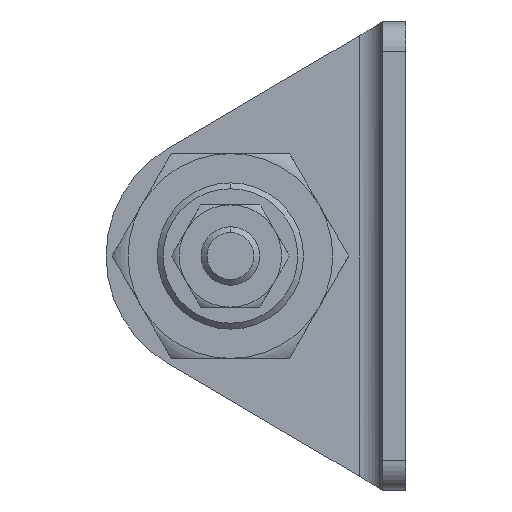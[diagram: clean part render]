
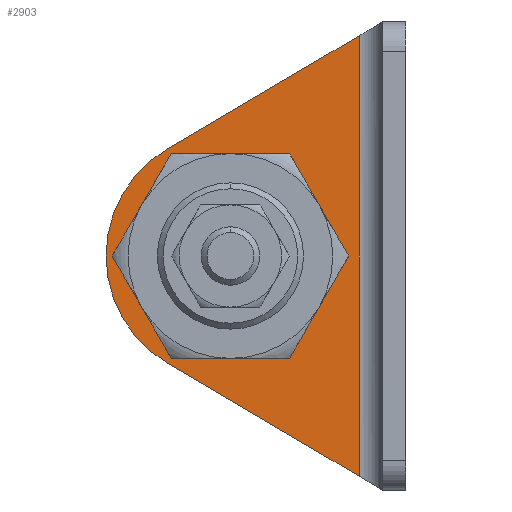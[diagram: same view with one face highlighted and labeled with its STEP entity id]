
A CAD part, left-side view. The second image highlights one B-rep face of the part: STEP entity #2903.
In plain terms, the highlighted planar face has unit normal (-1, 0, 0).
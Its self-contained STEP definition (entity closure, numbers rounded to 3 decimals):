
#16 = AXIS2_PLACEMENT_3D ( 'NONE', #1990, #3541, #2503 ) ;
#64 = EDGE_CURVE ( 'NONE', #3720, #2274, #1570, .T. ) ;
#189 = CIRCLE ( 'NONE', #3404, 5.7 ) ;
#305 = ORIENTED_EDGE ( 'NONE', *, *, #64, .T. ) ;
#316 = CIRCLE ( 'NONE', #16, 8.5 ) ;
#451 = VERTEX_POINT ( 'NONE', #3080 ) ;
#496 = EDGE_CURVE ( 'NONE', #2274, #1502, #316, .T. ) ;
#500 = EDGE_CURVE ( 'NONE', #1502, #1925, #1796, .T. ) ;
#674 = EDGE_LOOP ( 'NONE', ( #305, #868, #2521, #2812 ) ) ;
#701 = DIRECTION ( 'NONE',  ( 0., -1., 0. ) ) ;
#819 = DIRECTION ( 'NONE',  ( 0., -0.861, -0.508 ) ) ;
#858 = DIRECTION ( 'NONE',  ( 0., -1., 0. ) ) ;
#866 = DIRECTION ( 'NONE',  ( 0., 0.861, -0.508 ) ) ;
#868 = ORIENTED_EDGE ( 'NONE', *, *, #496, .T. ) ;
#1016 = CARTESIAN_POINT ( 'NONE',  ( -1.6, 15.601, -7.744 ) ) ;
#1024 = EDGE_CURVE ( 'NONE', #451, #1341, #189, .T. ) ;
#1225 = VECTOR ( 'NONE', #819, 1000. ) ;
#1237 = CARTESIAN_POINT ( 'NONE',  ( -1.6, 17.7, 0. ) ) ;
#1341 = VERTEX_POINT ( 'NONE', #1237 ) ;
#1413 = DIRECTION ( 'NONE',  ( -1., 0., 0. ) ) ;
#1453 = ORIENTED_EDGE ( 'NONE', *, *, #3243, .F. ) ;
#1485 = DIRECTION ( 'NONE',  ( -1., 0., 0. ) ) ;
#1502 = VERTEX_POINT ( 'NONE', #2866 ) ;
#1570 = LINE ( 'NONE', #3834, #3823 ) ;
#1669 = AXIS2_PLACEMENT_3D ( 'NONE', #1687, #3621, #3235 ) ;
#1687 = CARTESIAN_POINT ( 'NONE',  ( -1.6, 1.6, 16. ) ) ;
#1796 = LINE ( 'NONE', #1016, #1225 ) ;
#1805 = CARTESIAN_POINT ( 'NONE',  ( -1.6, 12., 0. ) ) ;
#1808 = CARTESIAN_POINT ( 'NONE',  ( -1.6, 3.2, -15.057 ) ) ;
#1925 = VERTEX_POINT ( 'NONE', #1808 ) ;
#1963 = CARTESIAN_POINT ( 'NONE',  ( -1.6, 3.2, 16. ) ) ;
#1990 = CARTESIAN_POINT ( 'NONE',  ( -1.6, 12., 0. ) ) ;
#2073 = FACE_BOUND ( 'NONE', #3808, .T. ) ;
#2128 = CARTESIAN_POINT ( 'NONE',  ( -1.6, 16.317, 7.322 ) ) ;
#2274 = VERTEX_POINT ( 'NONE', #2128 ) ;
#2362 = CARTESIAN_POINT ( 'NONE',  ( -1.6, 3.2, 15.057 ) ) ;
#2503 = DIRECTION ( 'NONE',  ( 0., -1., 0. ) ) ;
#2521 = ORIENTED_EDGE ( 'NONE', *, *, #500, .T. ) ;
#2597 = CARTESIAN_POINT ( 'NONE',  ( -1.6, 12., 0. ) ) ;
#2726 = CIRCLE ( 'NONE', #3793, 5.7 ) ;
#2812 = ORIENTED_EDGE ( 'NONE', *, *, #3507, .F. ) ;
#2866 = CARTESIAN_POINT ( 'NONE',  ( -1.6, 16.317, -7.322 ) ) ;
#2903 = ADVANCED_FACE ( 'NONE', ( #2073, #3809 ), #3295, .T. ) ;
#3080 = CARTESIAN_POINT ( 'NONE',  ( -1.6, 6.3, 0. ) ) ;
#3096 = ORIENTED_EDGE ( 'NONE', *, *, #1024, .F. ) ;
#3235 = DIRECTION ( 'NONE',  ( 0., -1., 0. ) ) ;
#3243 = EDGE_CURVE ( 'NONE', #1341, #451, #2726, .T. ) ;
#3295 = PLANE ( 'NONE',  #1669 ) ;
#3404 = AXIS2_PLACEMENT_3D ( 'NONE', #1805, #1413, #701 ) ;
#3507 = EDGE_CURVE ( 'NONE', #3720, #1925, #3708, .T. ) ;
#3541 = DIRECTION ( 'NONE',  ( -1., 0., 0. ) ) ;
#3621 = DIRECTION ( 'NONE',  ( -1., 0., 0. ) ) ;
#3708 = LINE ( 'NONE', #1963, #3742 ) ;
#3720 = VERTEX_POINT ( 'NONE', #2362 ) ;
#3742 = VECTOR ( 'NONE', #3959, 1000. ) ;
#3793 = AXIS2_PLACEMENT_3D ( 'NONE', #2597, #1485, #858 ) ;
#3808 = EDGE_LOOP ( 'NONE', ( #3096, #1453 ) ) ;
#3809 = FACE_OUTER_BOUND ( 'NONE', #674, .T. ) ;
#3823 = VECTOR ( 'NONE', #866, 1000. ) ;
#3834 = CARTESIAN_POINT ( 'NONE',  ( -1.6, 1.6, 16. ) ) ;
#3959 = DIRECTION ( 'NONE',  ( 0., 0., -1. ) ) ;
